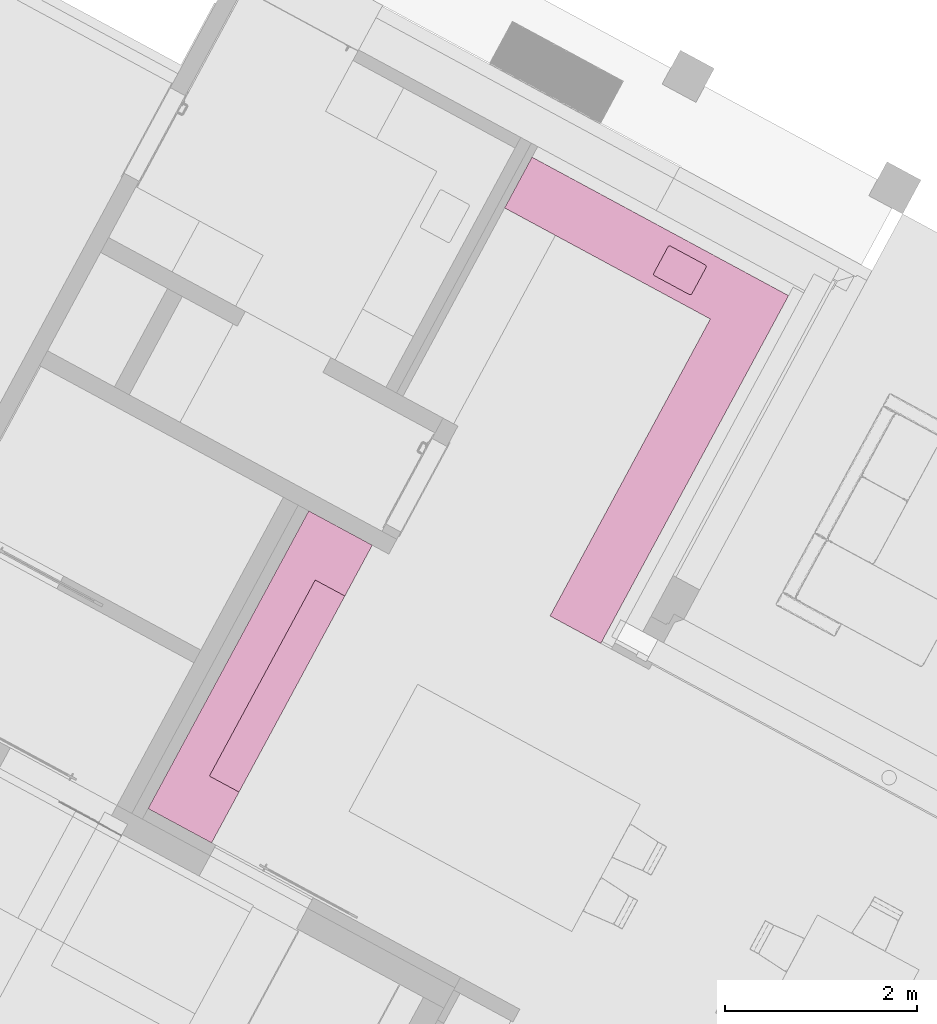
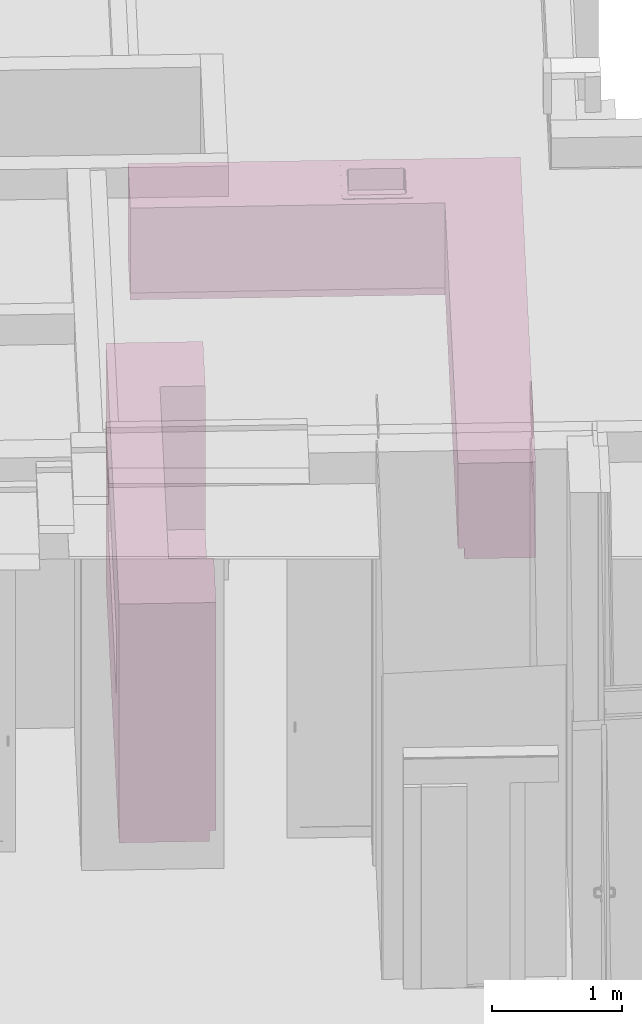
# One storey, part 39 of 52: 2 furnishings.
"""IFC2X3 building model written with IfcOpenShell, lengths in metres."""

from ifc_helpers import new_model, entity, si_unit, converted_unit, derived_unit, money_unit, direction, frame, origin_with_axes, place, context, subcontext, project, spatial, open_shell, faceted_brep, surface_model, type_object, element, save


model = new_model("IFC2X3")

# Units and contexts
model_context = context("Model", 3, precision=1e-05, world=origin_with_axes(), true_north=direction((0.0, 1.0)))
body_context = subcontext(model_context, "Body", "Model", "MODEL_VIEW")
ifc_project = project(units=[si_unit("LENGTHUNIT", "METRE"), si_unit("AREAUNIT", "SQUARE_METRE"), si_unit("VOLUMEUNIT", "CUBIC_METRE"), converted_unit("PLANEANGLEUNIT", "DEGREE", entity("IfcPlaneAngleMeasure", 0.0174532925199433), si_unit("PLANEANGLEUNIT", "RADIAN"), dimensions=[0, 0, 0, 0, 0, 0, 0]), money_unit("EUR"), converted_unit("TIMEUNIT", "Year", entity("IfcTimeMeasure", 31556926.0), si_unit("TIMEUNIT", "SECOND"), dimensions=[0, 0, 1, 0, 0, 0, 0]), si_unit("MASSUNIT", "GRAM", prefix="KILO"), si_unit("THERMODYNAMICTEMPERATUREUNIT", "DEGREE_CELSIUS"), si_unit("LUMINOUSINTENSITYUNIT", "LUMEN"), si_unit("ENERGYUNIT", "JOULE", prefix="MEGA"), derived_unit("THERMALCONDUCTANCEUNIT", [(si_unit("POWERUNIT", "WATT"), 1), (si_unit("LENGTHUNIT", "METRE"), -1), (si_unit("THERMODYNAMICTEMPERATUREUNIT", "KELVIN"), -1)]), derived_unit("SPECIFICHEATCAPACITYUNIT", [(si_unit("ENERGYUNIT", "JOULE"), 1), (si_unit("MASSUNIT", "GRAM", prefix="KILO"), -1), (si_unit("THERMODYNAMICTEMPERATUREUNIT", "KELVIN"), -1)]), derived_unit("MASSDENSITYUNIT", [(si_unit("MASSUNIT", "GRAM", prefix="KILO"), 1), (si_unit("VOLUMEUNIT", "CUBIC_METRE"), -1)])], contexts=[model_context])

# Site, building, storey
site_placement = place(None, frame((-3.949935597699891, 1.740105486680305, 0.0), z_axis=(0.0, 0.0, 1.0), x_axis=(0.8799804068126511, -0.475009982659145, 0.0)))
site = spatial("IfcSite", under=ifc_project, at=site_placement, Name="Gelände", CompositionType="ELEMENT")
building_placement = place(site_placement, origin_with_axes())
building = spatial("IfcBuilding", under=site, at=building_placement, Name="Gebäude", CompositionType="ELEMENT")
storey_placement = place(building_placement, origin_with_axes())
storey = spatial("IfcBuildingStorey", under=building, at=storey_placement, Name="Erdgeschoss", CompositionType="ELEMENT", Elevation=0.0)

# Furnishings
furnishing_element_type = type_object("IfcFurnishingElementType", Name="Konzeptküche 26")
furnishing_1_placement = place(storey_placement, frame((13.7174868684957, 14.09586423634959, 0.0), z_axis=(0.0, 0.0, 1.0), x_axis=(0.0, -1.0, 0.0)))
element("IfcFurnishingElement", 1, at=furnishing_1_placement, inside=storey, type_object=furnishing_element_type, Name="Küche-001", context=body_context, shape_type="Brep", body=[
    faceted_brep([(2.473029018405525, -3.067133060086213e-06, 0.1), (2.473026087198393, 0.6999969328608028, 0.1), (0.157757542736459, 0.6999872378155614, 0.1), (0.1577604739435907, -1.27621783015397e-05, 0.1), (2.473026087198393, 0.6999969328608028, 0.0), (2.473029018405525, -3.067133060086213e-06, 0.0), (0.157757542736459, 0.6999872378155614, 0.0), (0.1577604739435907, -1.27621783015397e-05, 0.0)], [[[0, 1, 2, 3]], [[4, 1, 0, 5]], [[1, 4, 6, 2]], [[2, 6, 7, 3]], [[5, 0, 3, 7]], [[4, 5, 7, 6]]]),
    faceted_brep([(2.473029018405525, -3.067133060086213e-06, 0.9), (2.473025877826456, 0.7499969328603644, 0.9), (0.1577573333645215, 0.7499872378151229, 0.9), (0.1577604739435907, -1.27621783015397e-05, 0.9), (2.473025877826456, 0.7499969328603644, 0.86), (2.473029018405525, -3.067133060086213e-06, 0.86), (0.1577573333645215, 0.7499872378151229, 0.86), (0.1577604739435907, -1.27621783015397e-05, 0.86)], [[[0, 1, 2, 3]], [[4, 1, 0, 5]], [[1, 4, 6, 2]], [[2, 6, 7, 3]], [[5, 0, 3, 7]], [[4, 5, 7, 6]]]),
    faceted_brep([(2.473029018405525, -3.067133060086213e-06, 0.86), (2.473025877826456, 0.7499969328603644, 0.86), (0.1577573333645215, 0.7499872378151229, 0.86), (0.1577604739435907, -1.27621783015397e-05, 0.86), (2.473025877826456, 0.7499969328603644, 0.09999999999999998), (2.473029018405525, -3.067133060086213e-06, 0.09999999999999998), (0.1577573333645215, 0.7499872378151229, 0.09999999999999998), (0.1577604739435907, -1.27621783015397e-05, 0.09999999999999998)], [[[0, 1, 2, 3]], [[4, 1, 0, 5]], [[1, 4, 6, 2]], [[2, 6, 7, 3]], [[5, 0, 3, 7]], [[4, 5, 7, 6]]]),
    faceted_brep([(1.773028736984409, -5.998341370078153e-06, 1.5), (2.473028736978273, -3.067134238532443e-06, 1.5), (2.473028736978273, -3.067134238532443e-06, 2.25), (1.773028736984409, -5.998341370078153e-06, 2.25), (1.773027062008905, 0.399994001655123, 1.5), (2.473027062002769, 0.3999969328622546, 1.5), (2.473027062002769, 0.3999969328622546, 2.25), (1.773027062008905, 0.399994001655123, 2.25)], [[[0, 1, 2, 3]], [[0, 4, 5, 1]], [[1, 5, 6, 2]], [[3, 2, 6, 7]], [[4, 0, 3, 7]], [[5, 4, 7, 6]]]),
    faceted_brep([(2.473028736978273, -3.067134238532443e-06, 1.5), (2.473027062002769, 0.3999969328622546, 1.5), (2.473027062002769, 0.3999969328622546, 2.25), (2.473028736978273, -3.067134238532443e-06, 2.25), (0.857760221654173, -9.830972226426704e-06, 1.5), (0.8577585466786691, 0.3999901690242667, 1.5), (0.8577585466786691, 0.3999901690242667, 2.25), (0.857760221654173, -9.830972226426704e-06, 2.25)], [[[0, 1, 2, 3]], [[0, 4, 5, 1]], [[1, 5, 6, 2]], [[3, 2, 6, 7]], [[4, 0, 3, 7]], [[5, 4, 7, 6]]]),
    faceted_brep([(0.8577602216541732, -9.830972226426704e-06, 1.5), (0.8577585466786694, 0.3999901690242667, 1.5), (0.8577585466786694, 0.3999901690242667, 2.25), (0.8577602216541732, -9.830972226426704e-06, 2.25), (0.1577602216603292, -1.276217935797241e-05, 1.5), (0.1577585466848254, 0.3999872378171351, 1.5), (0.1577585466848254, 0.3999872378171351, 2.25), (0.1577602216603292, -1.276217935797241e-05, 2.25)], [[[0, 1, 2, 3]], [[0, 4, 5, 1]], [[1, 5, 6, 2]], [[3, 2, 6, 7]], [[4, 0, 3, 7]], [[5, 4, 7, 6]]]),
    faceted_brep([(0.1577575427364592, 0.6999872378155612, 0.0), (-0.4422424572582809, 0.6999847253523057, 0.0), (-0.4422424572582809, 0.6999847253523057, 0.1), (0.1577575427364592, 0.6999872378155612, 0.1), (0.1577604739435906, -1.276217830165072e-05, 0.0), (-0.4422395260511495, -1.527464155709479e-05, 0.0), (-0.4422395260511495, -1.527464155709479e-05, 0.1), (0.1577604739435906, -1.276217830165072e-05, 0.1)], [[[0, 1, 2, 3]], [[0, 4, 5, 1]], [[1, 5, 6, 2]], [[3, 2, 6, 7]], [[4, 0, 3, 7]], [[5, 4, 7, 6]]]),
    faceted_brep([(0.1577573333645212, 0.7499872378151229, 0.1), (-0.4422426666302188, 0.7499847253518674, 0.1), (-0.4422426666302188, 0.7499847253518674, 2.25), (0.1577573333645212, 0.7499872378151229, 2.25), (0.1577604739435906, -1.276217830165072e-05, 0.1), (-0.4422395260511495, -1.527464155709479e-05, 0.1), (-0.4422395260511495, -1.527464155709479e-05, 2.25), (0.1577604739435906, -1.276217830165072e-05, 2.25)], [[[0, 1, 2, 3]], [[0, 4, 5, 1]], [[1, 5, 6, 2]], [[3, 2, 6, 7]], [[4, 0, 3, 7]], [[5, 4, 7, 6]]]),
    faceted_brep([(3.073026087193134, 0.6999994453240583, 0.0), (2.473026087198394, 0.6999969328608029, 0.0), (2.473026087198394, 0.6999969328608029, 0.1), (3.073026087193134, 0.6999994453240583, 0.1), (3.073029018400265, -5.54669804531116e-07, 0.0), (2.473029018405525, -3.067133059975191e-06, 0.0), (2.473029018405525, -3.067133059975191e-06, 0.1), (3.073029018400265, -5.54669804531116e-07, 0.1)], [[[0, 1, 2, 3]], [[0, 4, 5, 1]], [[1, 5, 6, 2]], [[3, 2, 6, 7]], [[4, 0, 3, 7]], [[5, 4, 7, 6]]]),
    faceted_brep([(3.073025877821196, 0.74999944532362, 0.1), (2.473025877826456, 0.7499969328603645, 0.1), (2.473025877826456, 0.7499969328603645, 2.25), (3.073025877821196, 0.74999944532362, 2.25), (3.073029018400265, -5.54669804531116e-07, 0.1), (2.473029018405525, -3.067133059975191e-06, 0.1), (2.473029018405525, -3.067133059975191e-06, 2.25), (3.073029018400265, -5.54669804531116e-07, 2.25)], [[[0, 1, 2, 3]], [[0, 4, 5, 1]], [[1, 5, 6, 2]], [[3, 2, 6, 7]], [[4, 0, 3, 7]], [[5, 4, 7, 6]]]),
])
furnishing_2_placement = place(storey_placement, frame((13.84444936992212, 18.87533207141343, 0.0), z_axis=(0.0, 0.0, 1.0), x_axis=(-0.9999999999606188, -8.874816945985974e-06, 0.0)))
element("IfcFurnishingElement", 2, at=furnishing_2_placement, inside=storey, type_object=furnishing_element_type, Name="Küche-001", context=body_context, shape_type="SurfaceModel", body=[
    faceted_brep([(-0.1682858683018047, -7.403594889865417e-05, 0.0), (-0.1682858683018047, -7.403594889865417e-05, 0.1), (-3.198027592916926, 8.787106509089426e-07, 0.1), (-3.198027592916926, 8.787106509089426e-07, 0.0), (-0.1682722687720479, 0.5499259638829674, 0.0), (-0.1682722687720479, 0.5499259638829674, 0.1), (-2.648022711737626, 0.5499872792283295, 0.1), (-2.648022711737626, 0.5499872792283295, 0.0)], [[[0, 1, 2, 3]], [[4, 5, 1, 0]], [[1, 5, 6, 2]], [[3, 2, 6, 7]], [[0, 3, 7, 4]], [[7, 6, 5, 4]]]),
    faceted_brep([(-3.198027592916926, 8.787106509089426e-07, 0.0), (-3.198027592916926, 8.787106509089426e-07, 0.1), (-3.197991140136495, 4.107314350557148, 0.1), (-3.197991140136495, 4.107314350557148, 0.0), (-2.648022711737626, 0.5499872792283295, 0.0), (-2.648022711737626, 0.5499872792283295, 0.1), (-2.647991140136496, 4.107314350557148, 0.1), (-2.647991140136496, 4.107314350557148, 0.0)], [[[0, 1, 2, 3]], [[4, 5, 1, 0]], [[1, 5, 6, 2]], [[3, 2, 6, 7]], [[0, 3, 7, 4]], [[7, 6, 5, 4]]]),
    faceted_brep([(-0.1682710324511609, 0.5999259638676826, 0.86), (-0.1682858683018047, -7.403594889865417e-05, 0.86), (-3.198027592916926, 8.787106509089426e-07, 0.86), (-2.598022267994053, 0.5999860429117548, 0.86), (-1.82965234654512, 0.5049670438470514, 0.86), (-2.329652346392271, 0.5049794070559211, 0.86), (-2.329663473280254, 0.05497940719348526, 0.86), (-1.829663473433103, 0.05496704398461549, 0.86), (-0.1682710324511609, 0.5999259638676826, 0.9), (-0.1682858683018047, -7.403594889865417e-05, 0.9), (-3.198027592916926, 8.787106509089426e-07, 0.9), (-2.598022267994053, 0.5999860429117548, 0.9), (-2.329652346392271, 0.5049794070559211, 0.9), (-1.82965234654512, 0.5049670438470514, 0.9), (-2.329663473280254, 0.05497940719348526, 0.9), (-1.829663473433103, 0.05496704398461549, 0.9)], [[[0, 1, 2, 3], [4, 5, 6, 7]], [[1, 0, 8, 9]], [[2, 1, 9, 10]], [[3, 2, 10, 11]], [[0, 3, 11, 8]], [[12, 5, 4, 13]], [[14, 6, 5, 12]], [[15, 7, 6, 14]], [[13, 4, 7, 15]], [[10, 9, 8, 11], [13, 15, 14, 12]]]),
    faceted_brep([(-3.198027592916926, 8.787106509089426e-07, 0.86), (-3.198027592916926, 8.787106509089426e-07, 0.9), (-3.197991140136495, 4.107314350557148, 0.9), (-3.197991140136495, 4.107314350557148, 0.86), (-2.598022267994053, 0.5999860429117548, 0.86), (-2.598022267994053, 0.5999860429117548, 0.9), (-2.597991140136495, 4.107314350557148, 0.9), (-2.597991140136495, 4.107314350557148, 0.86)], [[[0, 1, 2, 3]], [[4, 5, 1, 0]], [[1, 5, 6, 2]], [[3, 2, 6, 7]], [[0, 3, 7, 4]], [[7, 6, 5, 4]]]),
    faceted_brep([(-0.1682710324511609, 0.5999259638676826, 0.09999999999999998), (-0.1682858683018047, -7.403594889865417e-05, 0.09999999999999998), (-3.198027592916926, 8.787106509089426e-07, 0.09999999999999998), (-2.598022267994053, 0.5999860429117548, 0.09999999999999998), (-1.82965234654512, 0.5049670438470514, 0.09999999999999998), (-2.329652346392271, 0.5049794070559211, 0.09999999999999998), (-2.329663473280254, 0.05497940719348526, 0.09999999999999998), (-1.829663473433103, 0.05496704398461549, 0.09999999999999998), (-0.1682710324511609, 0.5999259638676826, 0.86), (-0.1682858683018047, -7.403594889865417e-05, 0.86), (-3.198027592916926, 8.787106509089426e-07, 0.86), (-2.598022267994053, 0.5999860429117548, 0.86), (-2.329652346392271, 0.5049794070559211, 0.86), (-1.82965234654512, 0.5049670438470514, 0.86), (-2.329663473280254, 0.05497940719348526, 0.86), (-1.829663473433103, 0.05496704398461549, 0.86)], [[[0, 1, 2, 3], [4, 5, 6, 7]], [[1, 0, 8, 9]], [[2, 1, 9, 10]], [[3, 2, 10, 11]], [[0, 3, 11, 8]], [[12, 5, 4, 13]], [[14, 6, 5, 12]], [[15, 7, 6, 14]], [[13, 4, 7, 15]], [[10, 9, 8, 11], [13, 15, 14, 12]]]),
    faceted_brep([(-3.198027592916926, 8.787106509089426e-07, 0.1), (-3.198027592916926, 8.787106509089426e-07, 0.86), (-3.197991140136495, 4.107314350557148, 0.86), (-3.197991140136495, 4.107314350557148, 0.1), (-2.598022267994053, 0.5999860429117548, 0.1), (-2.598022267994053, 0.5999860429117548, 0.86), (-2.597991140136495, 4.107314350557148, 0.86), (-2.597991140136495, 4.107314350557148, 0.1)], [[[0, 1, 2, 3]], [[4, 5, 1, 0]], [[1, 5, 6, 2]], [[3, 2, 6, 7]], [[0, 3, 7, 4]], [[7, 6, 5, 4]]]),
    surface_model("IfcShellBasedSurfaceModel", [(-2.284652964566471, 0.4799782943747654, 0.705), (-2.284652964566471, 0.4799782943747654, 0.8999999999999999), (-1.874652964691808, 0.4799681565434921, 0.8999999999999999), (-1.874652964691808, 0.4799681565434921, 0.705), (-2.292306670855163, 0.4784560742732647, 0.705), (-2.292306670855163, 0.4784560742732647, 0.8999999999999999), (-1.866999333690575, 0.4784455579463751, 0.8999999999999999), (-1.866999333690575, 0.4784455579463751, 0.705), (-1.860510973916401, 0.4741099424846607, 0.705), (-1.856175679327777, 0.4676213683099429, 0.705), (-1.854653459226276, 0.4599676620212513, 0.705), (-1.854661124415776, 0.1499676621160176, 0.705), (-1.856183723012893, 0.1423140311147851, 0.705), (-1.860519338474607, 0.1358256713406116, 0.705), (-1.867007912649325, 0.131490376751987, 0.705), (-1.874661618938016, 0.1299681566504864, 0.705), (-2.28466161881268, 0.1299782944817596, 0.705), (-2.292315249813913, 0.1315008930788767, 0.705), (-2.298803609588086, 0.1358365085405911, 0.705), (-2.303138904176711, 0.1423250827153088, 0.705), (-2.304661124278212, 0.1499787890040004, 0.705), (-2.304653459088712, 0.4599787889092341, 0.705), (-2.303130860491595, 0.4676324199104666, 0.705), (-2.298795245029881, 0.4741207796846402, 0.705), (-2.298795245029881, 0.4741207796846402, 0.8999999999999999), (-1.860510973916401, 0.4741099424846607, 0.8999999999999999), (-1.856175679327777, 0.4676213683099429, 0.8999999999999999), (-1.854653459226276, 0.4599676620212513, 0.8999999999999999), (-1.854661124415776, 0.1499676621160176, 0.8999999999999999), (-1.856183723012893, 0.1423140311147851, 0.8999999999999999), (-1.860519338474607, 0.1358256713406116, 0.8999999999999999), (-1.867007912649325, 0.131490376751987, 0.8999999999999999), (-1.874661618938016, 0.1299681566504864, 0.8999999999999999), (-2.28466161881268, 0.1299782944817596, 0.8999999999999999), (-2.292315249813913, 0.1315008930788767, 0.8999999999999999), (-2.298803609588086, 0.1358365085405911, 0.8999999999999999), (-2.303138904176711, 0.1423250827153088, 0.8999999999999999), (-2.304661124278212, 0.1499787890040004, 0.8999999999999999), (-2.304653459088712, 0.4599787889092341, 0.8999999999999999), (-2.303130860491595, 0.4676324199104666, 0.8999999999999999)], [open_shell([[[0, 1, 2, 3]], [[4, 5, 1, 0]], [[3, 2, 6, 7]], [[0, 3, 7, 8, 9, 10, 11, 12, 13, 14, 15, 16, 17, 18, 19, 20, 21, 22, 23, 4]], [[23, 24, 5, 4]], [[7, 6, 25, 8]], [[8, 25, 26, 9]], [[9, 26, 27, 10]], [[10, 27, 28, 11]], [[11, 28, 29, 12]], [[12, 29, 30, 13]], [[13, 30, 31, 14]], [[14, 31, 32, 15]], [[15, 32, 33, 16]], [[16, 33, 34, 17]], [[17, 34, 35, 18]], [[18, 35, 36, 19]], [[19, 36, 37, 20]], [[20, 37, 38, 21]], [[21, 38, 39, 22]], [[22, 39, 24, 23]]])]),
    faceted_brep([(-2.334651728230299, 0.5299795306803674, 0.8999999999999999), (-2.334651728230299, 0.5299795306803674, 0.9049999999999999), (-1.824651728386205, 0.5299669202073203, 0.9049999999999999), (-1.824651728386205, 0.5299669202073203, 0.8999999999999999), (-2.342305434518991, 0.5284573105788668, 0.8999999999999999), (-2.342305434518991, 0.5284573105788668, 0.9049999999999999), (-2.348794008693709, 0.5241220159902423, 0.9049999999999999), (-2.353129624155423, 0.5176336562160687, 0.9049999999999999), (-2.35465222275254, 0.5099800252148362, 0.9049999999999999), (-2.3546635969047, 0.04998002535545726, 0.9049999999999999), (-2.3531413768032, 0.04232631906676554, 0.9049999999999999), (-2.348806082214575, 0.03583774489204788, 0.9049999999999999), (-2.342317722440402, 0.03150212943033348, 0.9049999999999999), (-2.334664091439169, 0.02997953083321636, 0.9049999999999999), (-1.824664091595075, 0.02996692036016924, 0.9049999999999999), (-1.817010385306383, 0.03148914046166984, 0.9049999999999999), (-1.810521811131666, 0.03582443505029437, 0.9049999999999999), (-1.806186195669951, 0.04231279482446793, 0.9049999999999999), (-1.804663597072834, 0.04996642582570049, 0.9049999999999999), (-1.804652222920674, 0.5099664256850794, 0.9049999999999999), (-1.806174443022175, 0.5176201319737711, 0.9049999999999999), (-1.810509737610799, 0.5241087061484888, 0.9049999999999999), (-1.816998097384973, 0.5284443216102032, 0.9049999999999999), (-2.284652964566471, 0.4799782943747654, 0.9049999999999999), (-1.874652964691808, 0.4799681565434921, 0.9049999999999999), (-1.866999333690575, 0.4784455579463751, 0.9049999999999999), (-1.860510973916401, 0.4741099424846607, 0.9049999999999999), (-1.856175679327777, 0.4676213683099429, 0.9049999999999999), (-1.854653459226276, 0.4599676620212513, 0.9049999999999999), (-1.854661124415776, 0.1499676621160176, 0.9049999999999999), (-1.856183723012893, 0.1423140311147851, 0.9049999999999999), (-1.860519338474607, 0.1358256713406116, 0.9049999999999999), (-1.867007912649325, 0.131490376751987, 0.9049999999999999), (-1.874661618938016, 0.1299681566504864, 0.9049999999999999), (-2.28466161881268, 0.1299782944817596, 0.9049999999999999), (-2.292315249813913, 0.1315008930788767, 0.9049999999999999), (-2.298803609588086, 0.1358365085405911, 0.9049999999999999), (-2.303138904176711, 0.1423250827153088, 0.9049999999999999), (-2.304661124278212, 0.1499787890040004, 0.9049999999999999), (-2.304653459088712, 0.4599787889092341, 0.9049999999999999), (-2.303130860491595, 0.4676324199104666, 0.9049999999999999), (-2.298795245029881, 0.4741207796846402, 0.9049999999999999), (-2.292306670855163, 0.4784560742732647, 0.9049999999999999), (-1.816998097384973, 0.5284443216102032, 0.8999999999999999), (-1.810509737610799, 0.5241087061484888, 0.8999999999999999), (-1.806174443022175, 0.5176201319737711, 0.8999999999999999), (-1.804652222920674, 0.5099664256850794, 0.8999999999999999), (-1.804663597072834, 0.04996642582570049, 0.8999999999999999), (-1.806186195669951, 0.04231279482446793, 0.8999999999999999), (-1.810521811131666, 0.03582443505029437, 0.8999999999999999), (-1.817010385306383, 0.03148914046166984, 0.8999999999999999), (-1.824664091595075, 0.02996692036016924, 0.8999999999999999), (-2.334664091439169, 0.02997953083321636, 0.8999999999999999), (-2.342317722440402, 0.03150212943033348, 0.8999999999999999), (-2.348806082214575, 0.03583774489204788, 0.8999999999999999), (-2.3531413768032, 0.04232631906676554, 0.8999999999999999), (-2.3546635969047, 0.04998002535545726, 0.8999999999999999), (-2.35465222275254, 0.5099800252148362, 0.8999999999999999), (-2.353129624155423, 0.5176336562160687, 0.8999999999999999), (-2.348794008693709, 0.5241220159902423, 0.8999999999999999), (-2.284652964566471, 0.4799782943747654, 0.8999999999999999), (-2.292306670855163, 0.4784560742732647, 0.8999999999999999), (-2.298795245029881, 0.4741207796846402, 0.8999999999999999), (-2.303130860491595, 0.4676324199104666, 0.8999999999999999), (-2.304653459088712, 0.4599787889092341, 0.8999999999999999), (-2.304661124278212, 0.1499787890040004, 0.8999999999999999), (-2.303138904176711, 0.1423250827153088, 0.8999999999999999), (-2.298803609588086, 0.1358365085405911, 0.8999999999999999), (-2.292315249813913, 0.1315008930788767, 0.8999999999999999), (-2.28466161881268, 0.1299782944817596, 0.8999999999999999), (-1.874661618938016, 0.1299681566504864, 0.8999999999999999), (-1.867007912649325, 0.131490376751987, 0.8999999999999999), (-1.860519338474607, 0.1358256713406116, 0.8999999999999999), (-1.856183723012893, 0.1423140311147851, 0.8999999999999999), (-1.854661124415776, 0.1499676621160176, 0.8999999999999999), (-1.854653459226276, 0.4599676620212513, 0.8999999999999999), (-1.856175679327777, 0.4676213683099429, 0.8999999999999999), (-1.860510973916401, 0.4741099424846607, 0.8999999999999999), (-1.866999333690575, 0.4784455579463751, 0.8999999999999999), (-1.874652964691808, 0.4799681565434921, 0.8999999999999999)], [[[0, 1, 2, 3]], [[4, 5, 1, 0]], [[1, 5, 6, 7, 8, 9, 10, 11, 12, 13, 14, 15, 16, 17, 18, 19, 20, 21, 22, 2], [23, 24, 25, 26, 27, 28, 29, 30, 31, 32, 33, 34, 35, 36, 37, 38, 39, 40, 41, 42]], [[3, 2, 22, 43]], [[0, 3, 43, 44, 45, 46, 47, 48, 49, 50, 51, 52, 53, 54, 55, 56, 57, 58, 59, 4], [60, 61, 62, 63, 64, 65, 66, 67, 68, 69, 70, 71, 72, 73, 74, 75, 76, 77, 78, 79]], [[59, 6, 5, 4]], [[58, 7, 6, 59]], [[57, 8, 7, 58]], [[56, 9, 8, 57]], [[55, 10, 9, 56]], [[54, 11, 10, 55]], [[53, 12, 11, 54]], [[52, 13, 12, 53]], [[51, 14, 13, 52]], [[50, 15, 14, 51]], [[49, 16, 15, 50]], [[48, 17, 16, 49]], [[47, 18, 17, 48]], [[46, 19, 18, 47]], [[45, 20, 19, 46]], [[44, 21, 20, 45]], [[43, 22, 21, 44]], [[79, 24, 23, 60]], [[78, 25, 24, 79]], [[77, 26, 25, 78]], [[76, 27, 26, 77]], [[75, 28, 27, 76]], [[74, 29, 28, 75]], [[73, 30, 29, 74]], [[72, 31, 30, 73]], [[71, 32, 31, 72]], [[70, 33, 32, 71]], [[69, 34, 33, 70]], [[68, 35, 34, 69]], [[67, 36, 35, 68]], [[66, 37, 36, 67]], [[65, 38, 37, 66]], [[64, 39, 38, 65]], [[63, 40, 39, 64]], [[62, 41, 40, 63]], [[61, 42, 41, 62]], [[60, 23, 42, 61]]]),
])

save(model, "model.ifc")
